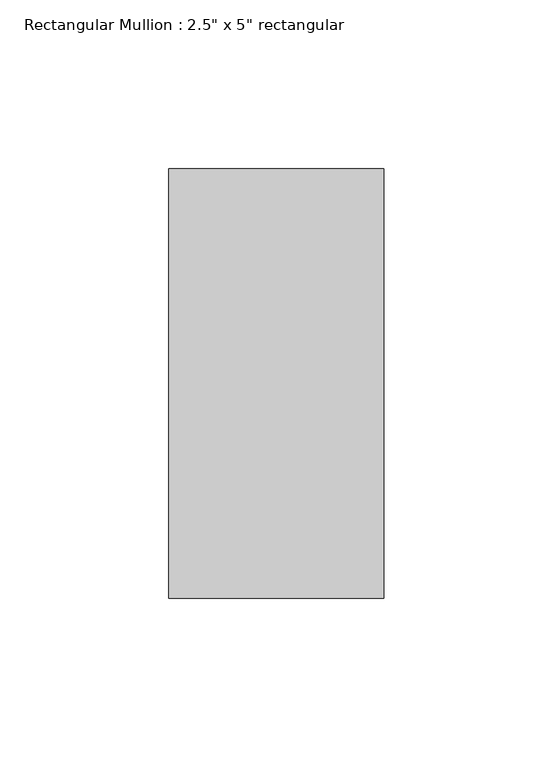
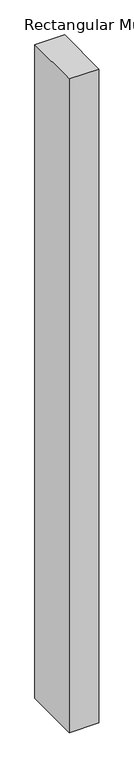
"""IFC4 building model written with IfcOpenShell, lengths in millimetres: member geometry."""

from ifc_helpers import new_model, si_unit, frame, origin, place, context, project, spatial, polyline, outline, extrude, source, transform, mapped, element, save


def member_c3403f11(model_context):
    return source(origin(), model_context, "Body", "SweptSolid", [
        extrude(outline(polyline([(0.0, 63.5), (0.0, -63.5), (-63.5, -63.5), (-63.5, 63.5), (0.0, 63.5)])), frame((0.0, 0.0, -1477.9625), z_axis=(0.0, 0.0, 1.0), x_axis=(1.0, 0.0, 0.0)), (0.0, 0.0, 1.0), 1477.9625),
    ])


if __name__ == "__main__":
    model = new_model("IFC4")
    model_context = context("Model", 3, world=origin())
    ifc_project = project(units=[si_unit("LENGTHUNIT", "METRE", prefix="MILLI")], contexts=[model_context])
    site = spatial("IfcSite", under=ifc_project)
    building = spatial("IfcBuilding", under=site)
    placement = place(None, origin())
    member_shape = member_c3403f11(model_context)
    element("IfcMember", 1, ObjectType="Rectangular Mullion : 2.5\" x 5\" rectangular", at=placement, inside=building, context=model_context, shape_type="MappedRepresentation", body=[
        mapped(member_shape, transform((0.0, 0.0, 0.0), x_axis=(1.0, 0.0, 0.0), y_axis=(0.0, 1.0, 0.0), z_axis=(0.0, 0.0, 1.0))),
    ])
    save(model, "model.ifc")
